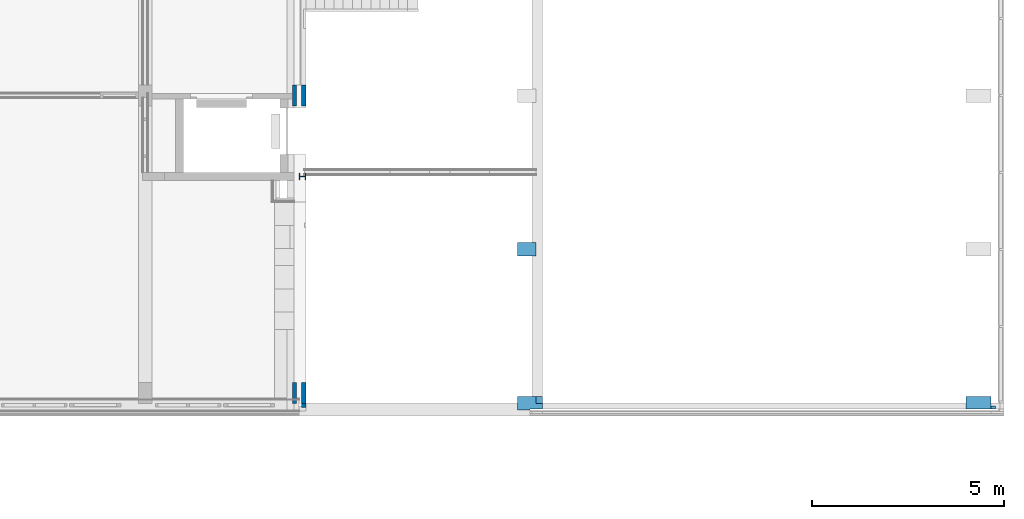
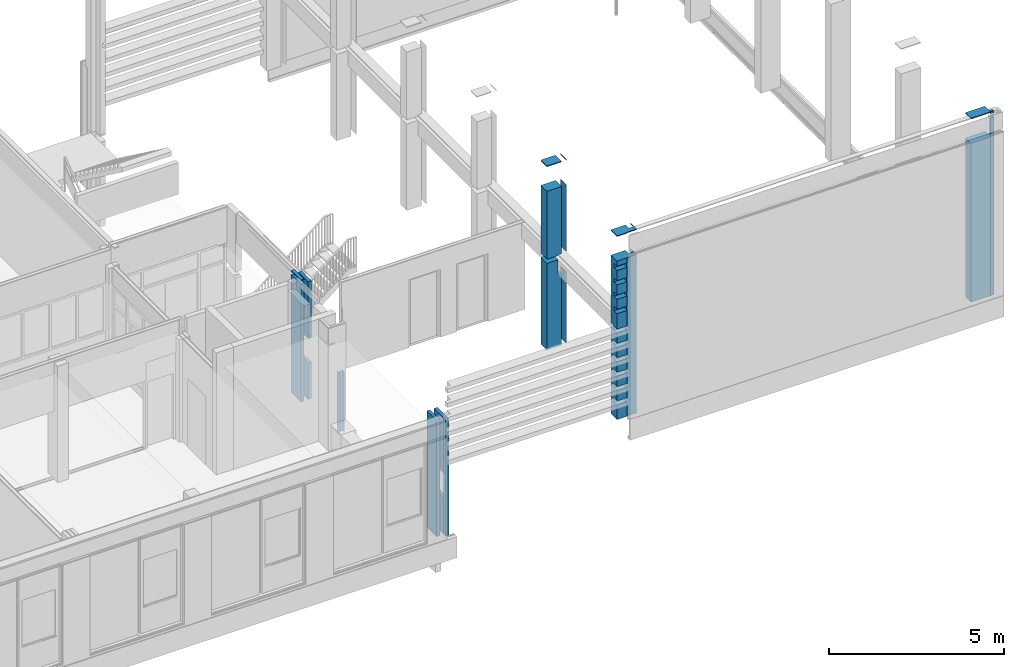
# One storey, part 14 of 94: 8 columns.
"""IFC2X3 building model written with IfcOpenShell, lengths in millimetres."""

import ifcopenshell
import ifcopenshell.guid

model = None  # the IFC model being written
_history = None  # IfcOwnerHistory: only IFC2X3 demands one
_inside = {}  # id of a spatial element -> (the spatial element, [elements in it])
_under = {}  # id of a project, library or spatial element -> (it, [spatial elements below it])
_declared = {}  # id of a project -> (the project, [libraries it declares])
_typed = {}  # id of a type object -> (the type object, [elements of that type])
_made_of = {}  # id of a material, layer set ... -> (it, [elements and type objects made of it])


def new_model(schema):
    """Start an empty IFC model of exactly this schema.

    Asked for "IFC4X3", IfcOpenShell would pick the latest addendum, in which some entities
    have other attributes; the version numbers below select the first issue.
    IFC2X3 requires an IfcOwnerHistory on every rooted entity: one is made here for all.
    """
    global model, _history
    if schema == "IFC4X3":
        model = ifcopenshell.file(schema_version=(4, 3, 0, 0))
    else:
        model = ifcopenshell.file(schema=schema)
    _inside.clear()
    _under.clear()
    _declared.clear()
    _typed.clear()
    _made_of.clear()
    _history = None
    if model.schema == "IFC2X3":
        org = make("IfcOrganization", Name="unknown")
        user = make(
            "IfcPersonAndOrganization",
            ThePerson=make("IfcPerson", FamilyName="unknown"),
            TheOrganization=org,
        )
        app = make(
            "IfcApplication",
            ApplicationDeveloper=org,
            Version="unknown",
            ApplicationFullName="unknown",
            ApplicationIdentifier="unknown",
        )
        _history = make(
            "IfcOwnerHistory",
            OwningUser=user,
            OwningApplication=app,
            ChangeAction="ADDED",
            CreationDate=0,
        )
    return model


def make(cls, **values):
    """One entity of the class cls with the attributes given. An attribute that is None is left unset."""
    return model.create_entity(
        cls, **{name: value for name, value in values.items() if value is not None}
    )


def entity(cls, *values):
    """Any entity or typed value of the class cls, its attributes in the order of the schema. None: left unset."""
    e = model.create_entity(cls)
    for i, value in enumerate(values):
        if value is not None:
            e[i] = value
    return e


def rooted(cls, **values):
    """An entity with a GlobalId (a new one), such as an element, a storey or a relation."""
    return make(cls, GlobalId=ifcopenshell.guid.new(), OwnerHistory=_history, **values)


def si_unit(unit_type, name, prefix=None):
    """IfcSIUnit, for example si_unit("LENGTHUNIT", "METRE", prefix="MILLI")."""
    return make("IfcSIUnit", UnitType=unit_type, Prefix=prefix, Name=name)


def converted_unit(unit_type, name, factor, base, dimensions=None, offset=None):
    """IfcConversionBasedUnit, such as the inch: factor (a typed value) times the base unit."""
    return make(
        "IfcConversionBasedUnit"
        if offset is None
        else "IfcConversionBasedUnitWithOffset",
        ConversionOffset=offset,
        Dimensions=None
        if dimensions is None
        else entity("IfcDimensionalExponents", *dimensions),
        UnitType=unit_type,
        Name=name,
        ConversionFactor=make(
            "IfcMeasureWithUnit", ValueComponent=factor, UnitComponent=base
        ),
    )


def derived_unit(unit_type, elements):
    """IfcDerivedUnit: a product of units, each with its exponent."""
    return make(
        "IfcDerivedUnit",
        Elements=[
            make("IfcDerivedUnitElement", Unit=unit, Exponent=power)
            for unit, power in elements
        ],
        UnitType=unit_type,
    )


def money_unit(currency):
    """IfcMonetaryUnit."""
    return make("IfcMonetaryUnit", Currency=currency)


def assignment(units):
    """IfcUnitAssignment: the units of a project."""
    return None if units is None else make("IfcUnitAssignment", Units=units)


def point(xyz):
    """IfcCartesianPoint."""
    return None if xyz is None else make("IfcCartesianPoint", Coordinates=xyz)


def direction(xyz):
    """IfcDirection."""
    return None if xyz is None else make("IfcDirection", DirectionRatios=xyz)


def frame(location, z_axis=None, x_axis=None):
    """IfcAxis2Placement3D, a coordinate frame: its origin and axes. An axis left out is left unset."""
    return make(
        "IfcAxis2Placement3D",
        Location=point(location),
        Axis=direction(z_axis),
        RefDirection=direction(x_axis),
    )


def origin_with_axes():
    """The frame at (0, 0, 0) with the z axis (0, 0, 1) and the x axis (1, 0, 0) written out."""
    return frame((0.0, 0.0, 0.0), z_axis=(0.0, 0.0, 1.0), x_axis=(1.0, 0.0, 0.0))


def place(relative_to, where):
    """IfcLocalPlacement: puts the frame where relative to a parent placement (None: the world)."""
    return make(
        "IfcLocalPlacement", PlacementRelTo=relative_to, RelativePlacement=where
    )


def context(
    kind, dimensions, precision=None, world=None, true_north=None, identifier=None
):
    """IfcGeometricRepresentationContext, for example the 3D "Model" context."""
    return make(
        "IfcGeometricRepresentationContext",
        ContextIdentifier=identifier,
        ContextType=kind,
        CoordinateSpaceDimension=dimensions,
        Precision=precision,
        WorldCoordinateSystem=world,
        TrueNorth=true_north,
    )


def subcontext(parent, identifier, kind, view, scale=None):
    """IfcGeometricRepresentationSubContext, for example "Body" below "Model"."""
    return make(
        "IfcGeometricRepresentationSubContext",
        ContextIdentifier=identifier,
        ContextType=kind,
        ParentContext=parent,
        TargetScale=scale,
        TargetView=view,
    )


def project(units=None, contexts=None):
    """IfcProject with its units and contexts."""
    return rooted(
        "IfcProject",
        Name="project",
        RepresentationContexts=contexts,
        UnitsInContext=assignment(units),
    )


def spatial(cls, under=None, at=None, **own):
    """A site, building, storey or space (cls), placed at a placement, below another one or the project."""
    s = rooted(cls, ObjectPlacement=at, **own)
    if under is not None:
        _under.setdefault(under.id(), (under, []))[1].append(s)
    return s


def faces_of(points, faces, orient=None, outer=None):
    """IfcFace entities. A face is a list of loops; a loop is a list of indices into points, from 0.

    orient and outer hold one flag for each loop. By default every Orientation is true, the
    first loop of a face is its IfcFaceOuterBound and the others are IfcFaceBound.
    """
    made = []
    for i, loops in enumerate(faces):
        bounds = []
        for j, loop in enumerate(loops):
            is_outer = j == 0 if outer is None else outer[i][j]
            bounds.append(
                make(
                    "IfcFaceOuterBound" if is_outer else "IfcFaceBound",
                    Bound=make("IfcPolyLoop", Polygon=[points[k] for k in loop]),
                    Orientation=True if orient is None else orient[i][j],
                )
            )
        made.append(make("IfcFace", Bounds=bounds))
    return made


def faceted_brep(points, faces, orient=None, outer=None, voids=None):
    """IfcFacetedBrep: a solid bounded by flat faces; with voids (closed shells), ...WithVoids."""
    shared = [point(p) for p in points]
    hull = make("IfcClosedShell", CfsFaces=faces_of(shared, faces, orient, outer))
    if voids is None:
        return make("IfcFacetedBrep", Outer=hull)
    return make(
        "IfcFacetedBrepWithVoids",
        Outer=hull,
        Voids=[
            make(cls, CfsFaces=faces_of(shared, fs, o, b)) for cls, fs, o, b in voids
        ],
    )


def shape(context_of_items, identifier, shape_type, items):
    """IfcShapeRepresentation: the items that make up one representation, for example the "Body"."""
    return make(
        "IfcShapeRepresentation",
        ContextOfItems=context_of_items,
        RepresentationIdentifier=identifier,
        RepresentationType=shape_type,
        Items=items,
    )


def material(Name=None, Category=None):
    """IfcMaterial."""
    return make("IfcMaterial", Name=Name, Category=Category)


def made_of(thing, what):
    """Note that an element or type object is made of a material, layer set ...; save() writes the relation."""
    if what is not None:
        _made_of.setdefault(what.id(), (what, []))[1].append(thing)
    return thing


def type_object(cls, material=None, **own):
    """A type object (cls), such as IfcWallType, which elements share."""
    return made_of(rooted(cls, **own), material)


def element(
    cls,
    number,
    at=None,
    inside=None,
    cuts=None,
    type_object=None,
    material=None,
    context=None,
    identifier="Body",
    shape_type=None,
    held_by="IfcProductDefinitionShape",
    body=None,
    shapes=None,
    **own,
):
    """One element of the class cls, such as IfcWall. Its Tag is "e" and its number.

    at: its placement. inside: the storey or other place that contains it. cuts: it is an
    opening in that element (IfcRelVoidsElement). A single representation is given by context,
    identifier, shape_type and body (its items); several are given by shapes. held_by: the class
    of the entity that holds the representations. save() writes the other relations.
    """
    e = rooted(cls, Tag="e%d" % number, ObjectPlacement=at, **own)
    if body is not None:
        shapes = [shape(context, identifier, shape_type, body)]
    if shapes is not None:
        e.Representation = make(held_by, Representations=shapes)
    if inside is not None:
        _inside.setdefault(inside.id(), (inside, []))[1].append(e)
    if cuts is not None:
        rooted(
            "IfcRelVoidsElement", RelatingBuildingElement=cuts, RelatedOpeningElement=e
        )
    if type_object is not None:
        _typed.setdefault(type_object.id(), (type_object, []))[1].append(e)
    return made_of(e, material)


def aggregate(whole, parts):
    """IfcRelAggregates: a whole, such as a stair, and the parts it consists of."""
    return rooted("IfcRelAggregates", RelatingObject=whole, RelatedObjects=parts)


def save(model, path):
    """Write the relations noted so far, then the file.

    IfcRelAggregates (storeys below a building ...), IfcRelContainedInSpatialStructure (elements
    in a storey), IfcRelDefinesByType, IfcRelAssociatesMaterial and IfcRelDeclares: one each for
    every whole, place, type object, material and project.
    """
    for whole, parts in _under.values():
        aggregate(whole, parts)
    for where, things in _inside.values():
        rooted(
            "IfcRelContainedInSpatialStructure",
            RelatedElements=things,
            RelatingStructure=where,
        )
    for kind, things in _typed.values():
        rooted("IfcRelDefinesByType", RelatedObjects=things, RelatingType=kind)
    for what, things in _made_of.values():
        rooted("IfcRelAssociatesMaterial", RelatedObjects=things, RelatingMaterial=what)
    for by, libraries in _declared.values():
        rooted("IfcRelDeclares", RelatingContext=by, RelatedDefinitions=libraries)
    model.write(path)


model = new_model("IFC2X3")

# Units and contexts
model_context = context("Model", 3, precision=0.01, world=origin_with_axes(), true_north=direction((0.0, 1.0)))
body_context = subcontext(model_context, "Body", "Model", "MODEL_VIEW")
ifc_project = project(units=[si_unit("LENGTHUNIT", "METRE", prefix="MILLI"), si_unit("AREAUNIT", "SQUARE_METRE"), si_unit("VOLUMEUNIT", "CUBIC_METRE"), converted_unit("PLANEANGLEUNIT", "DEGREE", entity("IfcPlaneAngleMeasure", 0.0174532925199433), si_unit("PLANEANGLEUNIT", "RADIAN"), dimensions=[0, 0, 0, 0, 0, 0, 0]), money_unit("EUR"), converted_unit("TIMEUNIT", "Year", entity("IfcTimeMeasure", 31557600.0), si_unit("TIMEUNIT", "SECOND"), dimensions=[0, 0, 1, 0, 0, 0, 0]), si_unit("MASSUNIT", "GRAM", prefix="KILO"), si_unit("THERMODYNAMICTEMPERATUREUNIT", "DEGREE_CELSIUS"), si_unit("LUMINOUSINTENSITYUNIT", "LUMEN"), si_unit("ENERGYUNIT", "JOULE", prefix="MEGA"), derived_unit("THERMALCONDUCTANCEUNIT", [(si_unit("POWERUNIT", "WATT"), 1), (si_unit("LENGTHUNIT", "METRE"), -1), (si_unit("THERMODYNAMICTEMPERATUREUNIT", "KELVIN"), -1)]), derived_unit("SPECIFICHEATCAPACITYUNIT", [(si_unit("ENERGYUNIT", "JOULE"), 1), (si_unit("MASSUNIT", "GRAM", prefix="KILO"), -1), (si_unit("THERMODYNAMICTEMPERATUREUNIT", "KELVIN"), -1)]), derived_unit("MASSDENSITYUNIT", [(si_unit("MASSUNIT", "GRAM", prefix="KILO"), 1), (si_unit("VOLUMEUNIT", "CUBIC_METRE"), -1)])], contexts=[model_context])

# Site, building, storey
site_placement = place(None, origin_with_axes())
site = spatial("IfcSite", under=ifc_project, at=site_placement, Name="<site naam>", CompositionType="ELEMENT")
building_placement = place(site_placement, origin_with_axes())
building = spatial("IfcBuilding", under=site, at=building_placement, Name="<Naam gebouw>", CompositionType="ELEMENT")
storey_placement = place(building_placement, frame((0.0, 0.0, 4250.0), z_axis=(0.0, 0.0, 1.0), x_axis=(1.0, 0.0, 0.0)))
storey = spatial("IfcBuildingStorey", under=building, at=storey_placement, Name="01 1e verdieping", CompositionType="ELEMENT", Elevation=4250.0)

# Columns
ifc_material_1 = material(Name="betonblok C")
column_type_1 = type_object("IfcColumnType", Name="betonblok C 350 x 550", PredefinedType="COLUMN")
column_1_placement = place(storey_placement, frame((52000.00000000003, 275.0000000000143, 0.0), z_axis=(0.0, 0.0, 1.0), x_axis=(1.0, 0.0, 0.0)))
element("IfcColumn", 1, at=column_1_placement, inside=storey, type_object=column_type_1, material=ifc_material_1, Name="28_Kolom_betonblok", ObjectType="COLUMN", context=body_context, shape_type="Brep", body=[
    faceted_brep([(174.9999999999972, -275.0000000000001, 87.50000000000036), (174.9999999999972, -264.0893218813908, 87.50000000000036), (174.9999999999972, -264.0893218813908, 0.0), (174.9999999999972, 274.9999999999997, 0.0), (175.0000000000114, 274.9999999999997, 1275.0), (175.0000000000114, -275.0000000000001, 1275.0), (175.0000000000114, -275.0000000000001, 1087.5), (174.9999999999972, -264.0893218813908, 1087.5), (174.9999999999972, -264.0893218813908, 937.5), (175.0000000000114, -275.0000000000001, 937.5), (175.0000000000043, -275.0000000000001, 587.5000000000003), (174.9999999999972, -264.0893218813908, 587.5000000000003), (174.9999999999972, -264.0893218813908, 437.5), (175.0000000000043, -275.0000000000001, 437.4999999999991), (65.00000000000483, -264.0893218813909, 87.50000000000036), (65.00000000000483, -275.0000000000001, 87.50000000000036), (65.00000000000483, -264.0893218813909, 0.0), (65.00000000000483, 274.9999999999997, 0.0), (65.00000000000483, 274.9999999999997, 1275.0), (65.00000000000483, -275.0000000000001, 1275.0), (65.00000000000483, -275.0000000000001, 1087.5), (65.00000000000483, -264.0893218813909, 1087.5), (65.00000000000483, -264.0893218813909, 937.5), (65.00000000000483, -275.0000000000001, 937.5), (65.00000000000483, -275.0000000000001, 587.5000000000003), (65.00000000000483, -264.0893218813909, 587.5000000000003), (65.00000000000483, -264.0893218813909, 437.5), (65.00000000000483, -275.0000000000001, 437.5)], [[[0, 1, 2, 3, 4, 5, 6, 7, 8, 9, 10, 11, 12, 13]], [[14, 1, 0, 15]], [[16, 2, 1, 14]], [[3, 2, 16, 17]], [[17, 18, 4, 3]], [[19, 5, 4, 18]], [[19, 20, 6, 5]], [[21, 7, 6, 20]], [[22, 8, 7, 21]], [[23, 9, 8, 22]], [[23, 24, 10, 9]], [[25, 11, 10, 24]], [[26, 12, 11, 25]], [[27, 13, 12, 26]], [[27, 15, 0, 13]], [[16, 14, 15, 27, 26, 25, 24, 23, 22, 21, 20, 19, 18, 17]]]),
    faceted_brep([(174.9999999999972, -264.0893218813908, 2775.0), (174.9999999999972, -264.0893218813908, 2625.0), (175.0000000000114, -275.0000000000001, 2625.0), (175.0000000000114, -275.0000000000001, 2125.0), (175.0000000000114, 274.9999999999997, 2125.0), (174.9999999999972, 274.9999999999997, 4050.000000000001), (174.9999999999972, -275.0000000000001, 4050.000000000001), (174.9999999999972, -275.0000000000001, 3775.0), (174.9999999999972, -264.0893218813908, 3775.0), (174.9999999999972, -264.0893218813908, 3625.0), (174.9999999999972, -275.0000000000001, 3625.0), (175.0000000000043, -275.0000000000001, 3275.0), (174.9999999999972, -264.0893218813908, 3275.0), (174.9999999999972, -264.0893218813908, 3125.0), (175.0000000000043, -275.0000000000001, 3125.0), (175.0000000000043, -275.0000000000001, 2775.0), (65.00000000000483, -264.0893218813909, 2625.0), (65.00000000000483, -264.0893218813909, 2775.0), (65.00000000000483, -275.0000000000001, 2625.0), (65.00000000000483, -275.0000000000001, 2125.0), (65.00000000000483, 274.9999999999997, 2125.0), (65.00000000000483, 274.9999999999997, 4050.000000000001), (65.00000000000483, -275.0000000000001, 4050.000000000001), (65.00000000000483, -275.0000000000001, 3775.0), (65.00000000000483, -264.0893218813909, 3775.0), (65.00000000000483, -264.0893218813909, 3625.0), (65.00000000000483, -275.0000000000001, 3625.0), (65.00000000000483, -275.0000000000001, 3275.0), (65.00000000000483, -264.0893218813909, 3275.0), (65.00000000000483, -264.0893218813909, 3125.0), (65.00000000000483, -275.0000000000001, 3125.0), (65.00000000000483, -275.0000000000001, 2775.0)], [[[0, 1, 2, 3, 4, 5, 6, 7, 8, 9, 10, 11, 12, 13, 14, 15]], [[16, 1, 0, 17]], [[18, 2, 1, 16]], [[3, 2, 18, 19]], [[19, 20, 4, 3]], [[5, 4, 20, 21]], [[22, 6, 5, 21]], [[22, 23, 7, 6]], [[24, 8, 7, 23]], [[25, 9, 8, 24]], [[26, 10, 9, 25]], [[26, 27, 11, 10]], [[28, 12, 11, 27]], [[29, 13, 12, 28]], [[30, 14, 13, 29]], [[30, 31, 15, 14]], [[17, 0, 15, 31]], [[16, 17, 31, 30, 29, 28, 27, 26, 25, 24, 23, 22, 21, 20, 19, 18]]]),
    faceted_brep([(-174.9999999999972, -275.0000000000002, 4050.000000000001), (-64.99999999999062, -275.0000000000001, 4050.000000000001), (-64.99999999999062, 275.0000000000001, 4050.000000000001), (-174.9999999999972, 275.0000000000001, 4050.000000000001), (-174.9999999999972, -275.0000000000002, 0.0), (-64.99999999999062, -275.0000000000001, 0.0), (-64.99999999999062, 275.0000000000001, 0.0), (-174.9999999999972, 275.0000000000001, 0.0)], [[[0, 1, 2, 3]], [[4, 5, 1, 0]], [[5, 6, 2, 1]], [[3, 2, 6, 7]], [[0, 3, 7, 4]], [[7, 6, 5, 4]]]),
])
column_2_placement = place(storey_placement, frame((52000.00000000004, 8000.000000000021, 0.0), z_axis=(0.0, 0.0, 1.0), x_axis=(1.0, 0.0, 0.0)))
element("IfcColumn", 2, at=column_2_placement, inside=storey, type_object=column_type_1, material=ifc_material_1, Name="28_Kolom_betonblok", ObjectType="COLUMN", context=body_context, shape_type="Brep", body=[
    faceted_brep([(64.99999999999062, 275.0000000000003, 0.0), (64.99999999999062, 275.0000000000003, 1275.0), (175.0000000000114, 275.0000000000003, 1275.0), (174.9999999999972, 275.0000000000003, 0.0), (64.99999999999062, -275.0000000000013, 0.0), (64.99999999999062, -275.0000000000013, 1275.0), (175.0000000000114, -275.0000000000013, 1275.0), (174.9999999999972, -275.0000000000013, 0.0)], [[[0, 1, 2, 3]], [[4, 5, 1, 0]], [[5, 6, 2, 1]], [[3, 2, 6, 7]], [[0, 3, 7, 4]], [[7, 6, 5, 4]]]),
    faceted_brep([(174.9999999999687, -275.0000000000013, 4100.000000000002), (175.0000000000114, -275.0000000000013, 2125.0), (175.0000000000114, 275.0000000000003, 2125.0), (174.9999999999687, 275.0000000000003, 4100.000000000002), (64.99999999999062, -275.0000000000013, 4100.000000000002), (64.99999999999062, -275.0000000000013, 2125.0), (64.99999999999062, 275.0000000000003, 2125.0), (64.99999999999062, 275.0000000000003, 4100.000000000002)], [[[0, 1, 2, 3]], [[4, 5, 1, 0]], [[5, 6, 2, 1]], [[3, 2, 6, 7]], [[7, 4, 0, 3]], [[7, 6, 5, 4]]]),
    faceted_brep([(-174.9999999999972, 274.9999999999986, 0.0), (-174.9999999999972, 274.9999999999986, 4100.000000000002), (-65.00000000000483, 274.9999999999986, 4100.000000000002), (-65.00000000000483, 274.9999999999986, 0.0), (-174.9999999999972, -275.0000000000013, 0.0), (-174.9999999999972, -275.0000000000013, 4100.000000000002), (-65.00000000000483, -275.0000000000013, 4100.000000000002), (-65.00000000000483, -275.0000000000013, 0.0)], [[[0, 1, 2, 3]], [[4, 5, 1, 0]], [[5, 6, 2, 1]], [[3, 2, 6, 7]], [[4, 0, 3, 7]], [[7, 6, 5, 4]]]),
    faceted_brep([(-65.00000000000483, -275.0000000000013, 4250.0), (-65.00000000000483, -275.0000000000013, 4220.000000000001), (-65.00000000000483, 274.9999999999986, 4220.000000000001), (-65.00000000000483, 274.9999999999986, 4250.0), (-174.9999999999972, -275.0000000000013, 4250.0), (-174.9999999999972, -275.0000000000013, 4220.000000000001), (-174.9999999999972, 274.9999999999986, 4220.000000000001), (-174.9999999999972, 274.9999999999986, 4250.0)], [[[0, 1, 2, 3]], [[4, 5, 1, 0]], [[5, 6, 2, 1]], [[3, 2, 6, 7]], [[7, 4, 0, 3]], [[7, 6, 5, 4]]]),
])
column_type_2 = type_object("IfcColumnType", Name="betonblok C 350 x 650", PredefinedType="COLUMN")
column_3_placement = place(storey_placement, frame((58000.00000000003, 4010.910678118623, 2125.0), z_axis=(0.0, 0.0, 1.0), x_axis=(0.0, -1.0, 0.0)))
element("IfcColumn", 3, at=column_3_placement, inside=storey, type_object=column_type_2, material=ifc_material_1, Name="28_fc_betonblok", ObjectType="COLUMN", context=body_context, shape_type="Brep", body=[
    faceted_brep([(-174.9999999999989, -325.0000000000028, 3008.000000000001), (-175.0000000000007, 44.9999999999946, 3008.000000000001), (-174.9999999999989, 44.9999999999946, 2487.500000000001), (-174.9999999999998, 157.7828447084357, 2487.500000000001), (-175.0000000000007, 157.7828447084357, 0.0), (-174.9999999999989, -325.0000000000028, 0.0), (175.0000000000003, -325.0000000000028, 3008.000000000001), (175.0000000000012, 44.9999999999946, 3008.000000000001), (175.000000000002, 44.9999999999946, 2487.500000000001), (175.0000000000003, 157.7828447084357, 2487.500000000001), (175.0000000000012, 157.7828447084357, 0.0), (175.0000000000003, -325.0000000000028, 0.0)], [[[0, 1, 2, 3, 4, 5]], [[6, 7, 1, 0]], [[8, 2, 1, 7]], [[8, 9, 3, 2]], [[4, 3, 9, 10]], [[10, 11, 5, 4]], [[5, 11, 6, 0]], [[9, 8, 7, 6, 11, 10]]]),
    faceted_brep([(175.0000000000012, 157.7828447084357, 6365.0), (174.9999999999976, 45.00000000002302, 6365.0), (175.0000000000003, -325.0000000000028, 6365.0), (-174.9999999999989, -325.0000000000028, 6365.0), (-174.9999999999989, 45.00000000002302, 6365.0), (-175.0000000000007, 157.7828447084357, 6365.0), (175.0000000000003, -325.0000000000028, 6395.0), (175.0000000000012, 157.7828447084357, 6395.0), (-174.9999999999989, -325.0000000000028, 6395.0), (-174.9999999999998, 157.7828447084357, 6395.0)], [[[0, 1, 2, 3, 4, 5]], [[6, 2, 1, 0, 7]], [[8, 3, 2, 6]], [[5, 4, 3, 8, 9]], [[7, 0, 5, 9]], [[9, 8, 6, 7]]]),
    faceted_brep([(-174.9999999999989, -325.0000000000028, 3158.000000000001), (-174.9999999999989, -325.0000000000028, 5515.000000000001), (-175.0000000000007, 45.00000000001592, 5515.000000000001), (-175.0000000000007, 157.7828447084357, 5515.000000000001), (-175.0000000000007, 157.7828447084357, 3187.5), (-174.9999999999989, 44.9999999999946, 3187.5), (-175.0000000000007, 44.9999999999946, 3158.000000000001), (175.0000000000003, -325.0000000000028, 3158.000000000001), (175.0000000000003, -325.0000000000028, 5515.000000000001), (175.0000000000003, 45.00000000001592, 5515.000000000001), (175.0000000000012, 157.7828447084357, 5515.000000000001), (175.0000000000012, 157.7828447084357, 3187.5), (175.000000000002, 44.9999999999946, 3187.5), (175.0000000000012, 44.9999999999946, 3158.000000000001)], [[[0, 1, 2, 3, 4, 5, 6]], [[7, 8, 1, 0]], [[3, 2, 1, 8, 9, 10]], [[4, 3, 10, 11]], [[12, 5, 4, 11]], [[13, 6, 5, 12]], [[0, 6, 13, 7]], [[10, 9, 8, 7, 13, 12, 11]]]),
    faceted_brep([(-174.9999999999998, 317.7828447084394, 0.0), (-175.0000000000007, 317.7828447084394, 2487.500000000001), (-174.9999999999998, 324.9999999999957, 2487.500000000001), (-174.9999999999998, 325.0000000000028, 0.0), (175.0000000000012, 317.7828447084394, 0.0), (175.0000000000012, 317.7828447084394, 2487.500000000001), (175.0000000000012, 324.9999999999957, 2487.500000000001), (175.0000000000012, 325.0000000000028, 0.0)], [[[0, 1, 2, 3]], [[4, 5, 1, 0]], [[5, 6, 2, 1]], [[3, 2, 6, 7]], [[0, 3, 7, 4]], [[7, 6, 5, 4]]]),
    faceted_brep([(-174.9999999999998, 317.7828447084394, 3187.5), (-175.0000000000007, 317.7828447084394, 5515.000000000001), (-175.0000000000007, 325.0000000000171, 5515.000000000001), (-174.9999999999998, 324.9999999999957, 3187.5), (175.0000000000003, 317.7828447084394, 3187.5), (175.0000000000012, 317.7828447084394, 5515.000000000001), (174.9999999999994, 325.0000000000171, 5515.000000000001), (175.0000000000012, 324.9999999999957, 3187.5)], [[[0, 1, 2, 3]], [[4, 5, 1, 0]], [[5, 6, 2, 1]], [[3, 2, 6, 7]], [[4, 0, 3, 7]], [[7, 6, 5, 4]]]),
    faceted_brep([(175.0000000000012, 325.0000000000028, 6395.0), (175.0000000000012, 325.0000000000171, 6365.0), (-175.0000000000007, 325.0000000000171, 6365.0), (-174.9999999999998, 325.0000000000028, 6395.0), (175.0000000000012, 317.7828447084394, 6395.0), (175.0000000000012, 317.7828447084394, 6365.0), (-175.0000000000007, 317.7828447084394, 6365.0), (-175.0000000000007, 317.7828447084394, 6395.0)], [[[0, 1, 2, 3]], [[4, 5, 1, 0]], [[5, 6, 2, 1]], [[3, 2, 6, 7]], [[4, 0, 3, 7]], [[7, 6, 5, 4]]]),
])
column_4_placement = place(storey_placement, frame((58000.00000000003, 10.91067811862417, 2125.0), z_axis=(0.0, 0.0, 1.0), x_axis=(0.0, -1.0, 0.0)))
element("IfcColumn", 4, at=column_4_placement, inside=storey, type_object=column_type_2, material=ifc_material_1, Name="28_Kolom_betonblok", ObjectType="COLUMN", context=body_context, shape_type="Brep", body=[
    faceted_brep([(174.9999999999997, 0.0, 1000.0), (174.9999999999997, 0.0, 650.0000000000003), (159.9999999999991, 0.0, 650.0000000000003), (159.9999999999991, 0.0, 1000.0), (174.9999999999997, -325.0000000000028, 1000.0), (174.9999999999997, -325.0000000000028, 650.0000000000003), (0.0, 0.0, 650.0000000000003), (0.0, -325.0000000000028, 650.0000000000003), (160.0000000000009, 0.0, 500.0), (160.0000000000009, 0.0, 0.0), (160.0000000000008, 325.0000000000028, 0.0), (159.999999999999, 325.0000000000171, 5515.000000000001), (159.9999999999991, 0.0, 5515.000000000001), (159.9999999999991, 0.0, 5337.5), (159.9999999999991, 0.0, 5187.5), (159.9999999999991, 0.0, 4837.5), (159.9999999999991, 0.0, 4687.5), (159.9999999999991, 0.0, 4337.5), (159.9999999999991, 0.0, 4187.5), (159.9999999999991, 0.0, 3837.5), (159.9999999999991, 0.0, 3687.5), (159.9999999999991, 0.0, 3150.0), (159.9999999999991, 0.0, 3000.0), (159.9999999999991, 0.0, 2650.0), (159.9999999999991, 0.0, 2500.0), (159.9999999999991, 0.0, 2150.0), (159.9999999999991, 0.0, 2000.0), (159.9999999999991, 0.0, 1650.0), (159.9999999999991, 0.0, 1500.0), (159.9999999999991, 0.0, 1150.0), (0.0, 0.0, 1000.0), (0.0, -325.0000000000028, 1000.0), (0.0, -325.0000000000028, 500.0), (0.0, -325.0000000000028, 1150.0), (174.9999999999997, -325.0000000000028, 1150.0), (174.9999999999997, -325.0000000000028, 1500.0), (0.0, -325.0000000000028, 1500.0), (0.0, -325.0000000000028, 1650.0), (174.9999999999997, -325.0000000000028, 1650.0), (174.9999999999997, -325.0000000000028, 2000.0), (0.0, -325.0000000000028, 2000.0), (0.0, -325.0000000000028, 2150.0), (174.9999999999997, -325.0000000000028, 2150.0), (174.9999999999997, -325.0000000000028, 2500.0), (0.0, -325.0000000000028, 2500.0), (0.0, -325.0000000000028, 2650.0), (174.9999999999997, -325.0000000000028, 2650.0), (174.9999999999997, -325.0000000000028, 3000.0), (0.0, -325.0000000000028, 3000.0), (0.0, -325.0000000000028, 3150.0), (174.9999999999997, -325.0000000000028, 3150.0), (174.9999999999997, -325.0000000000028, 3687.5), (0.0, -325.0000000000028, 3687.5), (0.0, -325.0000000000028, 3837.5), (174.9999999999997, -325.0000000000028, 3837.499999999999), (174.9999999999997, -325.0000000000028, 4187.5), (0.0, -325.0000000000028, 4187.5), (0.0, -325.0000000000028, 4337.5), (174.9999999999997, -325.0000000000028, 4337.500000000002), (174.9999999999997, -325.0000000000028, 4687.5), (0.0, -325.0000000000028, 4687.5), (0.0, -325.0000000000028, 4837.5), (174.9999999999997, -325.0000000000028, 4837.5), (174.9999999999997, -325.0000000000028, 5187.5), (0.0, -325.0000000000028, 5187.5), (0.0, -325.0000000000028, 5337.5), (174.9999999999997, -325.0000000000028, 5337.5), (174.9999999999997, -325.0000000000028, 5515.000000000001), (-174.9999999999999, -325.0000000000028, 5515.000000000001), (-174.9999999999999, -325.0000000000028, 3158.000000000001), (-39.13468726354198, -325.0000000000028, 3158.000000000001), (-39.13468726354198, -325.0000000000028, 3008.000000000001), (-174.9999999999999, -325.0000000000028, 3008.000000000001), (-174.9999999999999, -325.0000000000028, 0.0), (174.9999999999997, -325.0000000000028, 0.0), (174.9999999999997, -325.0000000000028, 500.0), (0.0, 0.0, 500.0), (174.9999999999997, 0.0, 500.0), (174.9999999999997, 0.0, 0.0), (-175.0, 157.7828447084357, 0.0), (-164.0893218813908, 157.7828447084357, 0.0), (-164.0893218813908, 317.7828447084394, 0.0), (-175.0000000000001, 317.7828447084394, 0.0), (-175.0000000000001, 325.0000000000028, 0.0), (-175.0000000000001, 324.9999999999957, 3187.5), (-175.0000000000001, 325.0000000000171, 5515.000000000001), (-175.0000000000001, 324.9999999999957, 2487.500000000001), (0.0, 324.9999999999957, 2487.500000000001), (0.0, 324.9999999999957, 3187.5), (-175.0, 157.7828447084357, 5515.000000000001), (-175.0000000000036, 45.00000000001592, 5515.000000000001), (174.9999999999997, 0.0, 5515.000000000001), (-175.0000000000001, 317.7828447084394, 5515.000000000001), (10.91067811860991, 317.7828447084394, 5515.000000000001), (10.91067811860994, 157.7828447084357, 5515.000000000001), (174.9999999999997, 0.0, 5337.5), (0.0, 0.0, 5187.5), (0.0, 0.0, 5337.5), (174.9999999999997, 0.0, 5187.5), (174.9999999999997, 0.0, 4837.5), (0.0, 0.0, 4687.5), (0.0, 0.0, 4837.5), (174.9999999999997, 0.0, 4687.5), (174.9999999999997, 0.0, 4337.5), (0.0, 0.0, 4187.5), (0.0, 0.0, 4337.5), (174.9999999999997, 0.0, 4187.5), (174.9999999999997, 0.0, 3837.5), (0.0, 0.0, 3687.5), (0.0, 0.0, 3837.5), (174.9999999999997, 0.0, 3687.5), (174.9999999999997, 0.0, 3150.0), (0.0, 0.0, 3000.0), (0.0, 0.0, 3150.0), (174.9999999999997, 0.0, 3000.0), (174.9999999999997, 0.0, 2650.0), (0.0, 0.0, 2500.0), (0.0, 0.0, 2650.0), (174.9999999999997, 0.0, 2500.0), (174.9999999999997, 0.0, 2150.0), (0.0, 0.0, 2000.0), (0.0, 0.0, 2150.0), (174.9999999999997, 0.0, 2000.0), (174.9999999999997, 0.0, 1650.0), (0.0, 0.0, 1500.0), (0.0, 0.0, 1650.0), (174.9999999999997, 0.0, 1500.0), (174.9999999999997, 0.0, 1150.0), (0.0, 0.0, 1150.0), (-175.0, 157.7828447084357, 3187.5), (-175.0, 44.9999999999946, 3187.5), (-175.0, 44.9999999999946, 3158.000000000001), (-39.13468726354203, 44.9999999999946, 3158.000000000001), (-39.13468726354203, 44.9999999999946, 3008.000000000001), (-175.0, 44.9999999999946, 3008.000000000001), (-175.0, 44.9999999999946, 2487.500000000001), (-175.0, 157.7828447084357, 2487.500000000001), (-164.0893218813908, 157.7828447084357, 2487.500000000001), (-164.0893218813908, 317.7828447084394, 2487.500000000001), (-175.0000000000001, 317.7828447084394, 2487.500000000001), (-175.0000000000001, 317.7828447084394, 3187.5), (0.0, 44.9999999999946, 2487.500000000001), (0.0, 44.9999999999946, 3187.5), (-164.0893218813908, 317.7828447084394, 3187.5), (-164.0893218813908, 157.7828447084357, 3187.5), (10.91067811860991, 317.7828447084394, 3188.0), (-164.0893218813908, 317.7828447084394, 3188.0), (10.91067811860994, 157.7828447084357, 3188.0), (-164.0893218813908, 157.7828447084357, 3188.0)], [[[0, 1, 2, 3]], [[4, 5, 1, 0]], [[6, 2, 1, 5, 7]], [[3, 2, 8, 9, 10, 11, 12, 13, 14, 15, 16, 17, 18, 19, 20, 21, 22, 23, 24, 25, 26, 27, 28, 29]], [[4, 0, 3, 30, 31]], [[32, 7, 5, 4, 31, 33, 34, 35, 36, 37, 38, 39, 40, 41, 42, 43, 44, 45, 46, 47, 48, 49, 50, 51, 52, 53, 54, 55, 56, 57, 58, 59, 60, 61, 62, 63, 64, 65, 66, 67, 68, 69, 70, 71, 72, 73, 74, 75]], [[76, 8, 2, 6]], [[6, 7, 32, 76]], [[9, 8, 77, 78]], [[73, 79, 80, 81, 82, 83, 10, 9, 78, 74]], [[84, 85, 11, 10, 83, 86, 87, 88]], [[89, 90, 68, 67, 91, 12, 11, 85, 92, 93, 94]], [[13, 12, 91, 95]], [[96, 14, 13, 97]], [[98, 99, 15, 14]], [[100, 16, 15, 101]], [[102, 103, 17, 16]], [[104, 18, 17, 105]], [[106, 107, 19, 18]], [[108, 20, 19, 109]], [[110, 111, 21, 20]], [[112, 22, 21, 113]], [[114, 115, 23, 22]], [[116, 24, 23, 117]], [[118, 119, 25, 24]], [[120, 26, 25, 121]], [[122, 123, 27, 26]], [[124, 28, 27, 125]], [[126, 127, 29, 28]], [[30, 3, 29, 128]], [[128, 33, 31, 30]], [[128, 29, 127, 34, 33]], [[35, 34, 127, 126]], [[35, 126, 28, 124, 36]], [[125, 37, 36, 124]], [[125, 27, 123, 38, 37]], [[39, 38, 123, 122]], [[39, 122, 26, 120, 40]], [[121, 41, 40, 120]], [[121, 25, 119, 42, 41]], [[43, 42, 119, 118]], [[43, 118, 24, 116, 44]], [[117, 45, 44, 116]], [[117, 23, 115, 46, 45]], [[47, 46, 115, 114]], [[47, 114, 22, 112, 48]], [[113, 49, 48, 112]], [[113, 21, 111, 50, 49]], [[51, 50, 111, 110]], [[51, 110, 20, 108, 52]], [[109, 53, 52, 108]], [[109, 19, 107, 54, 53]], [[55, 54, 107, 106]], [[55, 106, 18, 104, 56]], [[105, 57, 56, 104]], [[105, 17, 103, 58, 57]], [[59, 58, 103, 102]], [[59, 102, 16, 100, 60]], [[101, 61, 60, 100]], [[101, 15, 99, 62, 61]], [[63, 62, 99, 98]], [[63, 98, 14, 96, 64]], [[97, 65, 64, 96]], [[97, 13, 95, 66, 65]], [[95, 91, 67, 66]], [[69, 68, 90, 89, 129, 130, 131]], [[69, 131, 132, 70]], [[70, 132, 133, 71]], [[71, 133, 134, 72]], [[134, 135, 136, 79, 73, 72]], [[78, 77, 75, 74]], [[75, 77, 8, 76, 32]], [[79, 136, 137, 80]], [[80, 137, 138, 81]], [[81, 138, 139, 82]], [[82, 139, 86, 83]], [[140, 92, 85, 84]], [[141, 87, 86, 139, 138, 137, 136, 135]], [[142, 88, 87, 141]], [[143, 140, 84, 88, 142, 130, 129, 144]], [[145, 93, 92, 140, 143, 146]], [[147, 94, 93, 145]], [[129, 89, 94, 147, 148, 144]], [[132, 131, 130, 142, 141, 135, 134, 133]], [[146, 143, 144, 148]], [[148, 147, 145, 146]]]),
    faceted_brep([(-175.0000000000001, 325.0000000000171, 6365.0), (159.999999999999, 325.0000000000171, 6365.0), (159.9999999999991, 0.0, 6365.0), (174.9999999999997, 0.0, 6365.0), (174.9999999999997, -325.0000000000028, 6365.0), (-174.9999999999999, -325.0000000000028, 6365.0), (-175.0000000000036, 45.00000000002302, 6365.0), (-175.0, 157.7828447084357, 6365.0), (10.91067811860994, 157.7828447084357, 6365.0), (10.91067811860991, 317.7828447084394, 6365.0), (-175.0000000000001, 317.7828447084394, 6365.0), (159.999999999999, 325.0000000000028, 6395.0), (-175.0000000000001, 325.0000000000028, 6395.0), (159.9999999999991, 0.0, 6395.0), (174.9999999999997, 0.0, 6395.0), (174.9999999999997, -325.0000000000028, 6395.0), (-174.9999999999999, -325.0000000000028, 6395.0), (-175.0, 157.7828447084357, 6395.0), (10.91067811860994, 157.7828447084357, 6395.0), (10.91067811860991, 317.7828447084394, 6395.0), (-175.0000000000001, 317.7828447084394, 6395.0)], [[[0, 1, 2, 3, 4, 5, 6, 7, 8, 9, 10]], [[11, 1, 0, 12]], [[13, 2, 1, 11]], [[14, 3, 2, 13]], [[15, 4, 3, 14]], [[16, 5, 4, 15]], [[7, 6, 5, 16, 17]], [[18, 8, 7, 17]], [[19, 9, 8, 18]], [[20, 10, 9, 19]], [[12, 0, 10, 20]], [[12, 20, 19, 18, 17, 16, 15, 14, 13, 11]]]),
])
column_5_placement = place(storey_placement, frame((69650.0, 0.0, 2125.0), z_axis=(0.0, 0.0, 1.0), x_axis=(0.0, -1.0, 0.0)))
element("IfcColumn", 5, at=column_5_placement, inside=storey, type_object=column_type_2, material=ifc_material_1, Name="28_Kolom_betonblok", ObjectType="COLUMN", context=body_context, shape_type="Brep", body=[
    faceted_brep([(-175.0000000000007, -325.0000000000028, 0.0), (-175.0000000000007, -325.0000000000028, 5515.000000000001), (-175.0000000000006, 325.0000000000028, 5515.000000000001), (-175.0000000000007, 325.0000000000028, 0.0), (149.0893218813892, -325.0000000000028, 0.0), (149.0893218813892, -325.0000000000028, 5515.000000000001), (149.0893218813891, 325.0000000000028, 5515.000000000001), (149.0893218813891, 325.0000000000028, 0.0)], [[[0, 1, 2, 3]], [[4, 5, 1, 0]], [[5, 6, 2, 1]], [[3, 2, 6, 7]], [[4, 0, 3, 7]], [[7, 6, 5, 4]]]),
    faceted_brep([(149.0893218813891, 325.0000000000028, 6395.0), (149.0893218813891, 325.0000000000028, 6365.0), (-175.0000000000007, 325.0000000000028, 6365.0), (-175.0000000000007, 325.0000000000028, 6395.0), (149.0893218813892, -325.0000000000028, 6395.0), (149.0893218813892, -325.0000000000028, 6365.0), (-175.0000000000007, -325.0000000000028, 6365.0), (-175.0000000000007, -325.0000000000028, 6395.0)], [[[0, 1, 2, 3]], [[4, 5, 1, 0]], [[5, 6, 2, 1]], [[3, 2, 6, 7]], [[0, 3, 7, 4]], [[7, 6, 5, 4]]]),
])
ifc_material_2 = material(Name="staal C")
column_type_3 = type_object("IfcColumnType", Name="Profiel H algemeen 160 x 160", PredefinedType="COLUMN")
column_6_placement = place(storey_placement, frame((52084.99981564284, 5897.99999853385, 0.0), z_axis=(0.0, 0.0, 1.0), x_axis=(0.0, 1.0, 0.0)))
element("IfcColumn", 6, at=column_6_placement, inside=storey, type_object=column_type_3, material=ifc_material_2, Name="28_Kolom_Profiel", ObjectType="COLUMN", context=body_context, shape_type="Brep", body=[
    faceted_brep([(-80.00009974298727, -80.00018435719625, 2095.0), (-80.00009974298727, -80.00018435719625, 0.0), (80.00009974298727, -80.00018435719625, 0.0), (80.00009974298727, -80.00018435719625, 2095.0), (-80.00008402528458, -66.99961566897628, 2095.0), (-80.00008402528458, -66.99961566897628, 0.0), (-4.000000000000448, -66.99961566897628, 0.0), (-3.999999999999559, 66.99961566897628, 0.0), (-80.00008402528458, 66.99961566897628, 0.0), (-80.00009974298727, 80.00018435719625, 0.0), (80.00009974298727, 80.00018435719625, 0.0), (80.00008402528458, 66.99961566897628, 0.0), (4.000000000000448, 66.99961566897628, 0.0), (3.999999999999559, -66.99961566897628, 0.0), (80.00008402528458, -66.99961566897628, 0.0), (80.00008402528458, -66.99961566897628, 2095.0), (3.999999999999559, -66.99961566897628, 2095.0), (4.000000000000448, 66.99961566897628, 2095.0), (80.00008402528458, 66.99961566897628, 2095.0), (80.00009974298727, 80.00018435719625, 2095.0), (-80.00009974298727, 80.00018435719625, 2095.0), (-80.00008402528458, 66.99961566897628, 2095.0), (-3.999999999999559, 66.99961566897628, 2095.0), (-4.000000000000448, -66.99961566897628, 2095.0)], [[[0, 1, 2, 3]], [[4, 5, 1, 0]], [[2, 1, 5, 6, 7, 8, 9, 10, 11, 12, 13, 14]], [[3, 2, 14, 15]], [[4, 0, 3, 15, 16, 17, 18, 19, 20, 21, 22, 23]], [[23, 6, 5, 4]], [[22, 7, 6, 23]], [[21, 8, 7, 22]], [[20, 9, 8, 21]], [[19, 10, 9, 20]], [[18, 11, 10, 19]], [[17, 12, 11, 18]], [[16, 13, 12, 17]], [[15, 14, 13, 16]]]),
])
column_type_4 = type_object("IfcColumnType", Name="betonblok C 108 x 110", PredefinedType="COLUMN")
column_7_placement = place(storey_placement, frame((70030.0001843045, -121.1501079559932, 2125.0), z_axis=(0.0, 0.0, 1.0), x_axis=(0.0, -1.0, 0.0)))
element("IfcColumn", 7, at=column_7_placement, inside=storey, type_object=column_type_4, material=ifc_material_1, Name="28_Kolom_betonblok", ObjectType="COLUMN", context=body_context, shape_type="Brep", body=[
    faceted_brep([(-53.85011087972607, -55.00018430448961, 0.0), (-53.85011087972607, -55.00018430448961, 6175.000014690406), (-53.85011087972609, 55.00018430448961, 6175.000014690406), (-53.85011087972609, 55.00018430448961, 0.0), (27.93921392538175, -55.00018430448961, 0.0), (27.93921392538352, -55.00018430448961, 6175.000014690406), (27.93921392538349, 55.00018430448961, 6175.000014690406), (27.93921392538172, 55.00018430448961, 0.0)], [[[0, 1, 2, 3]], [[4, 5, 1, 0]], [[5, 6, 2, 1]], [[3, 2, 6, 7]], [[0, 3, 7, 4]], [[7, 6, 5, 4]]]),
    faceted_brep([(27.93921392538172, 55.00018430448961, 6395.0), (27.93921392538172, 55.00018430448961, 6325.000014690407), (-53.85011087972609, 55.00018430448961, 6325.000014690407), (-53.85011087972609, 55.00018430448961, 6395.0), (27.93921392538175, -55.00018430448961, 6395.0), (27.93921392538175, -55.00018430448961, 6325.000014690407), (-53.85011087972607, -55.00018430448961, 6325.000014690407), (-53.85011087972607, -55.00018430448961, 6395.0)], [[[0, 1, 2, 3]], [[4, 5, 1, 0]], [[5, 6, 2, 1]], [[3, 2, 6, 7]], [[3, 7, 4, 0]], [[7, 6, 5, 4]]]),
])
ifc_material_3 = material(Name="beton_gewapend C")
column_type_5 = type_object("IfcColumnType", Name="beton_gewapend C 110 x 108", PredefinedType="COLUMN")
column_8_placement = place(storey_placement, frame((52120.00002385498, -53.83728297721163, 0.0), z_axis=(0.0, 0.0, 1.0), x_axis=(1.0, 0.0, 0.0)))
element("IfcColumn", 8, at=column_8_placement, inside=storey, type_object=column_type_5, material=ifc_material_3, Name="28_Kolom_beton_gewapend", ObjectType="COLUMN", context=body_context, shape_type="Brep", body=[
    faceted_brep([(-55.00000034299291, 53.83723689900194, 4050.000000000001), (55.00000034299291, 53.83723689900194, 4050.000000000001), (55.00000034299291, 53.83723689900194, 0.0), (-55.00000034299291, 53.83723689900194, 0.0), (-55.00000034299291, -53.83723689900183, 4050.000000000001), (55.00000034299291, -53.83723689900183, 4050.000000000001), (55.00000034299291, -53.83723689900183, 0.0), (-55.00000034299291, -53.83723689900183, 0.0)], [[[0, 1, 2, 3]], [[4, 5, 1, 0]], [[1, 5, 6, 2]], [[7, 3, 2, 6]], [[4, 0, 3, 7]], [[5, 4, 7, 6]]]),
])

save(model, "model.ifc")
